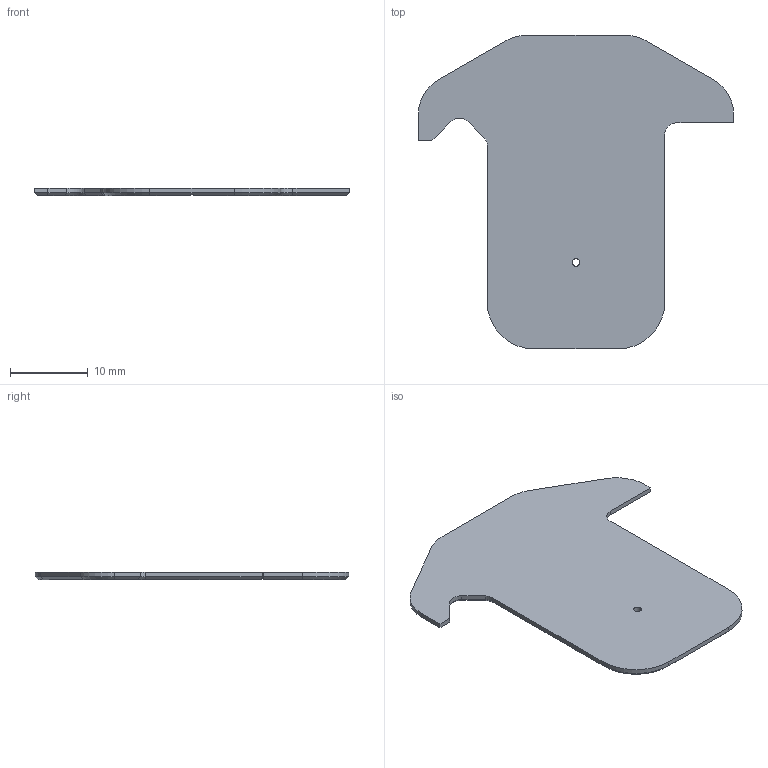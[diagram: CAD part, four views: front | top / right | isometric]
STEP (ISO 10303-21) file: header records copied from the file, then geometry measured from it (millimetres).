
FILE_DESCRIPTION((''),'2;1');
FILE_NAME('CPZ-S_1','2020-10-14T',('Administrator'),(''),'CREO PARAMETRIC BY PTC INC, 2017300','CREO PARAMETRIC BY PTC INC, 2017300','');
FILE_SCHEMA(('CONFIG_CONTROL_DESIGN'));
Length unit declared in the file: millimetre
Products named in the file (1): CPZ-S_1
Bounding box: 40.64 x 40.42 x 1 mm (x, y, z)
Volume: 1007.1 mm3; surface area: 2200.5 mm2
Topology: 1 solids, 1 shells, 152 faces, 389 edges, 251 vertices
Faces by surface type: plane 96, cylinder 45, cone 11
Entity records: 4631 total; most frequent: CARTESIAN_POINT 805, DIRECTION 799, ORIENTED_EDGE 778, EDGE_CURVE 389, VECTOR 277, LINE 277, AXIS2_PLACEMENT_3D 261, VERTEX_POINT 251
